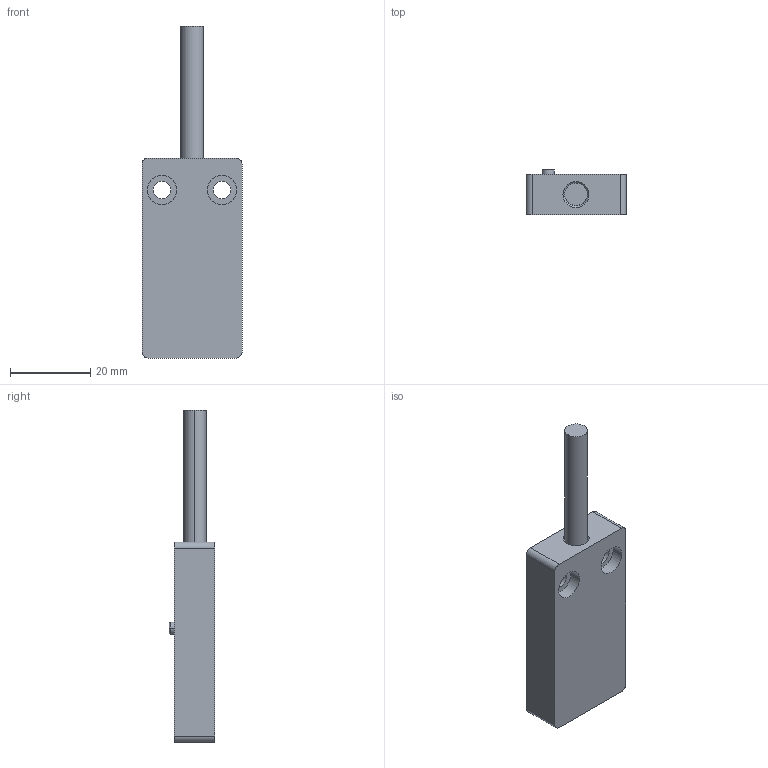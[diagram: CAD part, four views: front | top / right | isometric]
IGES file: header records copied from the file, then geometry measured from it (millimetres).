
Start section:  PTC IGES file: 6372290081.igs
Global section: file name: 6372290081.igs; native system: Creo Parametric by PTC Inc.; preprocessor: 2022124; author: Rudolf.Poettker; organization: Unknown; date: 20240911.094052; units: millimetre
Bounding box: 25 x 11.4 x 83 mm (x, y, z)
Surface area: 4945.2 mm2 (no closed solid volume)
Topology: 0 solids, 0 shells, 55 faces, 244 edges, 244 vertices
Faces by surface type: revolution 30, bspline 25
